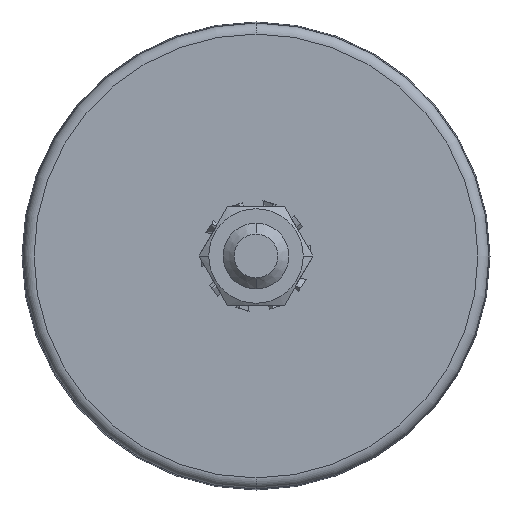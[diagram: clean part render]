
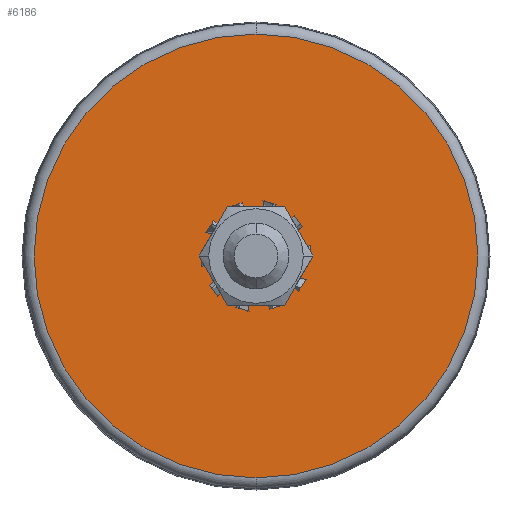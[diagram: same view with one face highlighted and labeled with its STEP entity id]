
A CAD part, front view. The second image highlights one B-rep face of the part: STEP entity #6186.
In plain terms, the highlighted planar face has unit normal (0, -1, 0).
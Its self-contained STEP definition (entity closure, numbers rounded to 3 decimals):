
#133 = CARTESIAN_POINT ( 'NONE',  ( 0., 0., 40.5 ) ) ;
#171 = FACE_OUTER_BOUND ( 'NONE', #5610, .T. ) ;
#306 = DIRECTION ( 'NONE',  ( 0., 0., -1. ) ) ;
#346 = FACE_BOUND ( 'NONE', #2565, .T. ) ;
#400 = DIRECTION ( 'NONE',  ( 0., -1., 0. ) ) ;
#752 = VERTEX_POINT ( 'NONE', #2825 ) ;
#760 = VERTEX_POINT ( 'NONE', #4901 ) ;
#811 = DIRECTION ( 'NONE',  ( 0., -1., 0. ) ) ;
#1035 = AXIS2_PLACEMENT_3D ( 'NONE', #3281, #400, #306 ) ;
#1121 = DIRECTION ( 'NONE',  ( 0., 1., 0. ) ) ;
#1381 = DIRECTION ( 'NONE',  ( 0., 0., -1. ) ) ;
#1714 = AXIS2_PLACEMENT_3D ( 'NONE', #5260, #4681, #4158 ) ;
#1831 = CIRCLE ( 'NONE', #1035, 40.5 ) ;
#2565 = EDGE_LOOP ( 'NONE', ( #5817, #5826 ) ) ;
#2641 = EDGE_CURVE ( 'NONE', #760, #752, #7308, .T. ) ;
#2747 = ORIENTED_EDGE ( 'NONE', *, *, #3940, .T. ) ;
#2825 = CARTESIAN_POINT ( 'NONE',  ( 0., 0., 8. ) ) ;
#3012 = CARTESIAN_POINT ( 'NONE',  ( 0., 0., 0. ) ) ;
#3055 = DIRECTION ( 'NONE',  ( 0., 0., -1. ) ) ;
#3281 = CARTESIAN_POINT ( 'NONE',  ( 0., 0., 0. ) ) ;
#3396 = DIRECTION ( 'NONE',  ( 0., 0., -1. ) ) ;
#3502 = CARTESIAN_POINT ( 'NONE',  ( 0., 0., -40.5 ) ) ;
#3614 = PLANE ( 'NONE',  #6476 ) ;
#3724 = VERTEX_POINT ( 'NONE', #133 ) ;
#3940 = EDGE_CURVE ( 'NONE', #3724, #4744, #1831, .T. ) ;
#4158 = DIRECTION ( 'NONE',  ( 0., 0., -1. ) ) ;
#4201 = ORIENTED_EDGE ( 'NONE', *, *, #4357, .T. ) ;
#4357 = EDGE_CURVE ( 'NONE', #4744, #3724, #5269, .T. ) ;
#4681 = DIRECTION ( 'NONE',  ( 0., 1., 0. ) ) ;
#4744 = VERTEX_POINT ( 'NONE', #3502 ) ;
#4777 = CARTESIAN_POINT ( 'NONE',  ( 6., 0., 0. ) ) ;
#4901 = CARTESIAN_POINT ( 'NONE',  ( 0., 0., -8. ) ) ;
#4930 = CIRCLE ( 'NONE', #6768, 8. ) ;
#5260 = CARTESIAN_POINT ( 'NONE',  ( 0., 0., 0. ) ) ;
#5269 = CIRCLE ( 'NONE', #7463, 40.5 ) ;
#5610 = EDGE_LOOP ( 'NONE', ( #4201, #2747 ) ) ;
#5817 = ORIENTED_EDGE ( 'NONE', *, *, #2641, .T. ) ;
#5826 = ORIENTED_EDGE ( 'NONE', *, *, #7318, .T. ) ;
#6186 = ADVANCED_FACE ( 'NONE', ( #346, #171 ), #3614, .T. ) ;
#6476 = AXIS2_PLACEMENT_3D ( 'NONE', #4777, #6526, #3055 ) ;
#6526 = DIRECTION ( 'NONE',  ( 0., -1., 0. ) ) ;
#6768 = AXIS2_PLACEMENT_3D ( 'NONE', #3012, #1121, #3396 ) ;
#7142 = CARTESIAN_POINT ( 'NONE',  ( 0., 0., 0. ) ) ;
#7308 = CIRCLE ( 'NONE', #1714, 8. ) ;
#7318 = EDGE_CURVE ( 'NONE', #752, #760, #4930, .T. ) ;
#7463 = AXIS2_PLACEMENT_3D ( 'NONE', #7142, #811, #1381 ) ;
